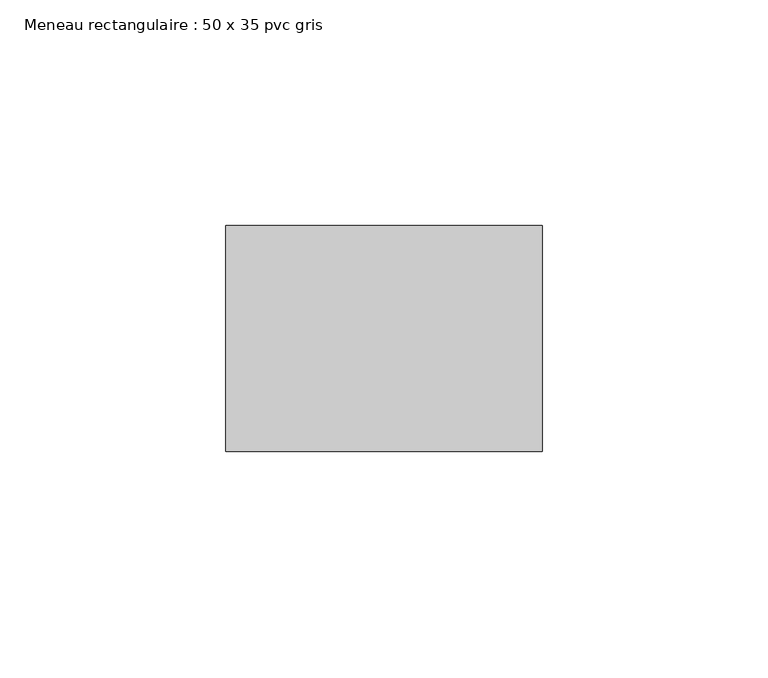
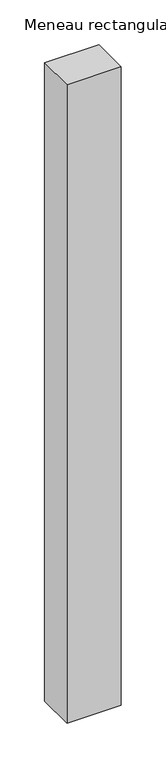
"""IFC4 building model written with IfcOpenShell, lengths in millimetres: member geometry, Meneau rectangulaire : 50 x 35 pvc gris."""

from ifc_helpers import new_model, si_unit, frame, origin, place, context, project, spatial, polyline, outline, extrude, source, transform, mapped, element, save


def meneau_rectangulaire_50_x_35_pvc_gris_3851f4f8(model_context):
    return source(origin(), model_context, "Body", "SweptSolid", [
        extrude(outline(polyline([(35.0, 0.0), (35.0, -50.0), (-35.0, -50.0), (-35.0, 0.0), (35.0, 0.0)])), frame((0.0, 0.0, -870.645148), z_axis=(0.0, 0.0, 1.0), x_axis=(1.0, 0.0, 0.0)), (0.0, 0.0, 1.0), 870.645148),
    ])


if __name__ == "__main__":
    model = new_model("IFC4")
    model_context = context("Model", 3, world=origin())
    ifc_project = project(units=[si_unit("LENGTHUNIT", "METRE", prefix="MILLI")], contexts=[model_context])
    site = spatial("IfcSite", under=ifc_project)
    building = spatial("IfcBuilding", under=site)
    placement = place(None, origin())
    meneau_rectangulaire_50_x_35_pvc_gris_shape = meneau_rectangulaire_50_x_35_pvc_gris_3851f4f8(model_context)
    element("IfcMember", 1, ObjectType="Meneau rectangulaire : 50 x 35 pvc gris", at=placement, inside=building, context=model_context, shape_type="MappedRepresentation", body=[
        mapped(meneau_rectangulaire_50_x_35_pvc_gris_shape, transform((0.0, 0.0, 0.0), x_axis=(1.0, 0.0, 0.0), y_axis=(0.0, 1.0, 0.0), z_axis=(0.0, 0.0, 1.0))),
    ])
    save(model, "model.ifc")
